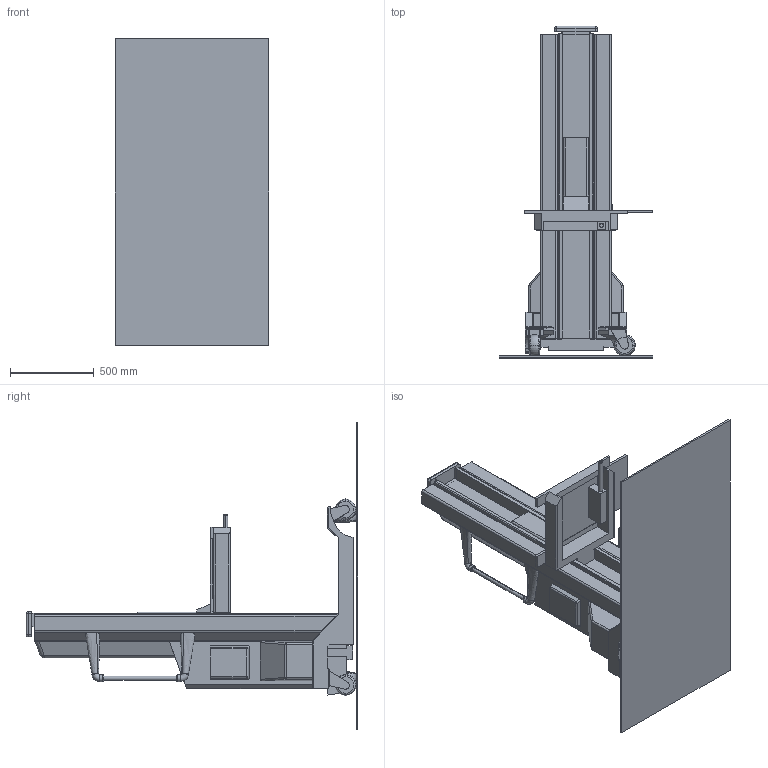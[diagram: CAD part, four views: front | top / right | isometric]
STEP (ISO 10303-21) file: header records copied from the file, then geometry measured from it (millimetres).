
FILE_DESCRIPTION (( 'STEP AP203' ), '1' );
FILE_NAME ('Simplified_SL-1000X_Waist_High_Shifted_Position_11-08-2023.STEP', '2023-11-08T22:49:18', ( '' ), ( '' ), 'SwSTEP 2.0', 'SolidWorks 2021', '' );
FILE_SCHEMA (( 'CONFIG_CONTROL_DESIGN' ));
Length unit declared in the file: millimetre
Products named in the file (11): RT-23178 Simplified Platform Surface, SL1000X; RT-23177 Floor Tile, 36x72in; RT-23186 Simplified Base Frame, SL1000X; RT-23187 Assy, Simplified Base, SL1000X_Offset_Wheels; RT-23182 Assy, Simplified Platform, SL1000X_Full_Extend; RT-23181 Simplified Sheet Metal and Covers, SL1000X; Simplified_SL-1000X_Waist_High_Shifted_Position_11-08-2023; RT-23179 Simplified Platform Frame, SL1000X; RT-23172 Simplified Caster, 5inch; RT-23189 Simplified Inner Column, SL1000X; RT-23188 Simplified Outer Column, SL1000X
Assembly tree (13 placements, depth 3):
  Simplified_SL-1000X_Waist_High_Shifted_Position_11-08-2023
    RT-23187 Assy, Simplified Base, SL1000X_Offset_Wheels
      RT-23186 Simplified Base Frame, SL1000X
      RT-23172 Simplified Caster, 5inch  x4
      RT-23177 Floor Tile, 36x72in
    RT-23188 Simplified Outer Column, SL1000X
    RT-23189 Simplified Inner Column, SL1000X
    RT-23182 Assy, Simplified Platform, SL1000X_Full_Extend
      RT-23179 Simplified Platform Frame, SL1000X
      RT-23178 Simplified Platform Surface, SL1000X
    RT-23181 Simplified Sheet Metal and Covers, SL1000X
Bounding box: 914.4 x 1979.86 x 1828.8 mm (x, y, z)
Volume: 259604783.7 mm3; surface area: 13050214.7 mm2
Topology: 11 solids, 11 shells, 579 faces, 1498 edges, 942 vertices
Faces by surface type: plane 351, cylinder 164, torus 34, sphere 22, bspline 8
Entity records: 18327 total; most frequent: CARTESIAN_POINT 4846, ORIENTED_EDGE 2582, DIRECTION 2533, EDGE_CURVE 1291, VECTOR 873, LINE 873, AXIS2_PLACEMENT_3D 830, VERTEX_POINT 816
